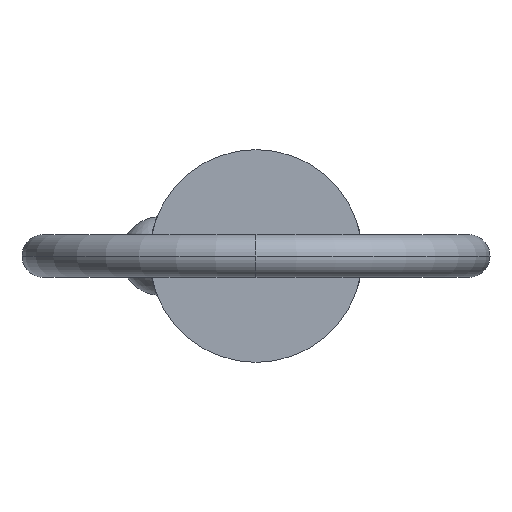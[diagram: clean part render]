
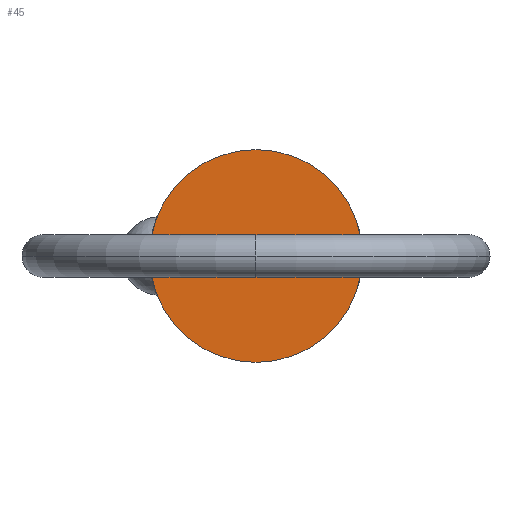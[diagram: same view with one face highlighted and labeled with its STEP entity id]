
A CAD part, left-side view. The second image highlights one B-rep face of the part: STEP entity #45.
In plain terms, the highlighted planar face has unit normal (-1, 0, 0).
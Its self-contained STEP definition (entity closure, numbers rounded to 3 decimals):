
#5 = PLANE ( 'NONE',  #94 ) ;
#45 = ADVANCED_FACE ( 'NONE', ( #622 ), #5, .T. ) ;
#94 = AXIS2_PLACEMENT_3D ( 'NONE', #225, #506, #560 ) ;
#225 = CARTESIAN_POINT ( 'NONE',  ( 0., 0., 0. ) ) ;
#336 = CIRCLE ( 'NONE', #444, 7.94 ) ;
#419 = CARTESIAN_POINT ( 'NONE',  ( 0., 0., -7.94 ) ) ;
#424 = CARTESIAN_POINT ( 'NONE',  ( 0., 0., 0. ) ) ;
#443 = ORIENTED_EDGE ( 'NONE', *, *, #511, .F. ) ;
#444 = AXIS2_PLACEMENT_3D ( 'NONE', #424, #778, #850 ) ;
#452 = CARTESIAN_POINT ( 'NONE',  ( 0., 0., 0. ) ) ;
#468 = VERTEX_POINT ( 'NONE', #419 ) ;
#506 = DIRECTION ( 'NONE',  ( -1., 0., 0. ) ) ;
#511 = EDGE_CURVE ( 'NONE', #468, #529, #336, .T. ) ;
#529 = VERTEX_POINT ( 'NONE', #626 ) ;
#560 = DIRECTION ( 'NONE',  ( 0., 0., 1. ) ) ;
#622 = FACE_OUTER_BOUND ( 'NONE', #888, .T. ) ;
#626 = CARTESIAN_POINT ( 'NONE',  ( 0., 0., 7.94 ) ) ;
#657 = DIRECTION ( 'NONE',  ( 0., 0., -1. ) ) ;
#682 = CIRCLE ( 'NONE', #719, 7.94 ) ;
#715 = EDGE_CURVE ( 'NONE', #529, #468, #682, .T. ) ;
#719 = AXIS2_PLACEMENT_3D ( 'NONE', #452, #874, #657 ) ;
#766 = ORIENTED_EDGE ( 'NONE', *, *, #715, .F. ) ;
#778 = DIRECTION ( 'NONE',  ( 1., 0., 0. ) ) ;
#850 = DIRECTION ( 'NONE',  ( 0., 0., -1. ) ) ;
#874 = DIRECTION ( 'NONE',  ( 1., 0., 0. ) ) ;
#888 = EDGE_LOOP ( 'NONE', ( #443, #766 ) ) ;
